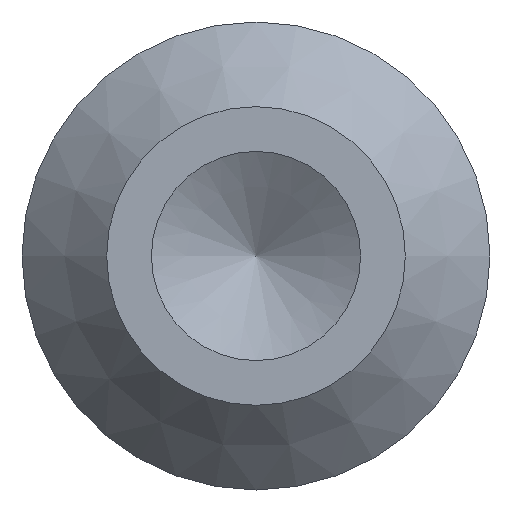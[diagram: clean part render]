
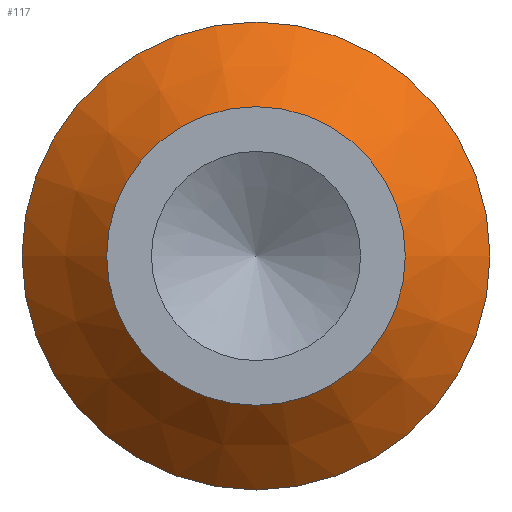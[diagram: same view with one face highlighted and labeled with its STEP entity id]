
A CAD part, left-side view. The second image highlights one B-rep face of the part: STEP entity #117.
In plain terms, the highlighted conical face has half-angle 45 degrees and reference radius 0.978 mm.
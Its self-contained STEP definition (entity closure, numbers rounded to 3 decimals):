
#19=FACE_BOUND($,#48,.T.);
#36=FACE_OUTER_BOUND($,#47,.T.);
#47=EDGE_LOOP($,(#97));
#48=EDGE_LOOP($,(#98));
#64=CIRCLE($,#133,0.762);
#66=CIRCLE($,#136,1.194);
#74=VERTEX_POINT($,#201);
#76=VERTEX_POINT($,#206);
#84=EDGE_CURVE($,#74,#74,#64,.T.);
#86=EDGE_CURVE($,#76,#76,#66,.T.);
#97=ORIENTED_EDGE($,*,*,#86,.F.);
#98=ORIENTED_EDGE($,*,*,#84,.T.);
#113=CONICAL_SURFACE($,#135,0.978,45.);
#117=ADVANCED_FACE($,(#36,#19),#113,.T.);
#133=AXIS2_PLACEMENT_3D($,#202,#161,#162);
#135=AXIS2_PLACEMENT_3D($,#205,#165,#166);
#136=AXIS2_PLACEMENT_3D($,#207,#167,#168);
#161=DIRECTION('center_axis',(1.,0.,0.));
#162=DIRECTION('ref_axis',(0.,1.,0.));
#165=DIRECTION('center_axis',(1.,0.,0.));
#166=DIRECTION('ref_axis',(0.,1.,0.));
#167=DIRECTION('center_axis',(1.,0.,0.));
#168=DIRECTION('ref_axis',(0.,1.,0.));
#201=CARTESIAN_POINT('',(2.388,0.762,0.));
#202=CARTESIAN_POINT('Origin',(2.388,0.,0.));
#205=CARTESIAN_POINT('Origin',(2.604,0.,0.));
#206=CARTESIAN_POINT('',(2.819,1.194,0.));
#207=CARTESIAN_POINT('Origin',(2.819,0.,0.));
